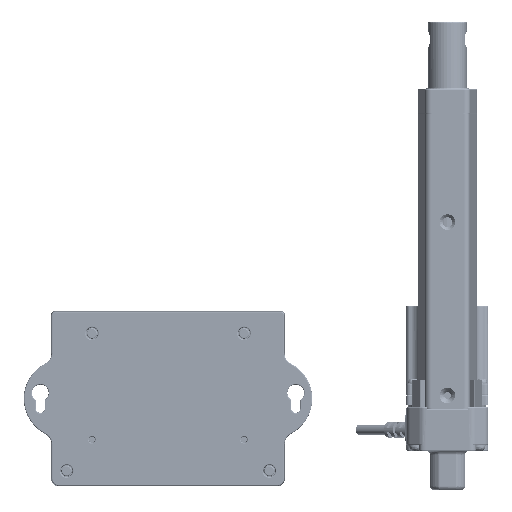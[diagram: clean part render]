
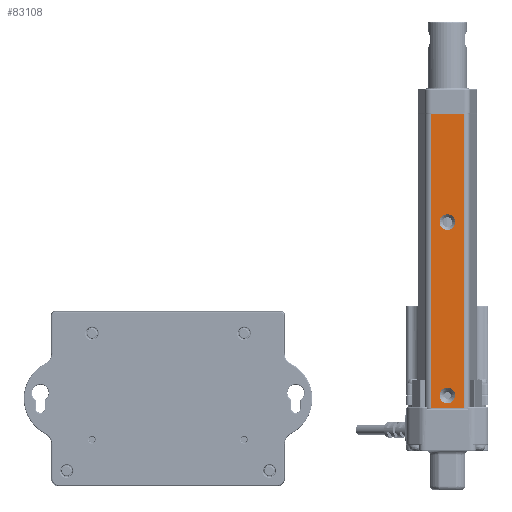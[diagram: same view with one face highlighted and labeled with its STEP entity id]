
A CAD part, front view. The second image highlights one B-rep face of the part: STEP entity #83108.
In plain terms, the highlighted planar face has unit normal (0, -1, 0) as drawn and (0, 0, -1) by its records, which use the part's own axes.
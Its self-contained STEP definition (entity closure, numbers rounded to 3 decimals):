
#10561=DIRECTION('',(1.,0.,0.));
#10562=VECTOR('',#10561,17.);
#10563=CARTESIAN_POINT('',(-8.5,153.,-21.45));
#10564=LINE('',#10563,#10562);
#24353=DIRECTION('',(0.,-1.,0.));
#24354=VECTOR('',#24353,151.);
#24355=CARTESIAN_POINT('',(-8.5,153.,-21.45));
#24356=LINE('',#24355,#24354);
#24357=DIRECTION('',(1.,0.,0.));
#24358=VECTOR('',#24357,17.);
#24359=CARTESIAN_POINT('',(-8.5,2.,-21.45));
#24360=LINE('',#24359,#24358);
#24361=DIRECTION('',(0.,1.,0.));
#24362=VECTOR('',#24361,151.);
#24363=CARTESIAN_POINT('',(8.5,2.,-21.45));
#24364=LINE('',#24363,#24362);
#24365=CARTESIAN_POINT('',(0.,97.4,-21.45));
#24366=DIRECTION('',(0.,0.,-1.));
#24367=DIRECTION('',(1.,0.,0.));
#24368=AXIS2_PLACEMENT_3D('',#24365,#24366,#24367);
#24370=CARTESIAN_POINT('',(0.,97.4,-21.45));
#24371=DIRECTION('',(0.,0.,-1.));
#24372=DIRECTION('',(-1.,0.,0.));
#24373=AXIS2_PLACEMENT_3D('',#24370,#24371,#24372);
#24375=CARTESIAN_POINT('',(0.,8.5,-21.45));
#24376=DIRECTION('',(0.,0.,-1.));
#24377=DIRECTION('',(1.,0.,0.));
#24378=AXIS2_PLACEMENT_3D('',#24375,#24376,#24377);
#24380=CARTESIAN_POINT('',(0.,8.5,-21.45));
#24381=DIRECTION('',(0.,0.,-1.));
#24382=DIRECTION('',(-1.,0.,0.));
#24383=AXIS2_PLACEMENT_3D('',#24380,#24381,#24382);
#31493=CARTESIAN_POINT('',(-8.5,153.,-21.45));
#31494=VERTEX_POINT('',#31493);
#31495=CARTESIAN_POINT('',(8.5,153.,-21.45));
#31496=VERTEX_POINT('',#31495);
#33896=CARTESIAN_POINT('',(-4.,8.5,-21.45));
#33897=VERTEX_POINT('',#33896);
#33898=CARTESIAN_POINT('',(4.,8.5,-21.45));
#33899=VERTEX_POINT('',#33898);
#33900=CARTESIAN_POINT('',(-8.5,2.,-21.45));
#33901=VERTEX_POINT('',#33900);
#33902=CARTESIAN_POINT('',(8.5,2.,-21.45));
#33903=VERTEX_POINT('',#33902);
#33904=CARTESIAN_POINT('',(4.,97.4,-21.45));
#33905=CARTESIAN_POINT('',(-4.,97.4,-21.45));
#33906=VERTEX_POINT('',#33904);
#33907=VERTEX_POINT('',#33905);
#83084=CARTESIAN_POINT('',(0.,77.5,-21.45));
#83085=DIRECTION('',(0.,0.,1.));
#83086=DIRECTION('',(-0.707,-0.707,0.));
#83087=AXIS2_PLACEMENT_3D('',#83084,#83085,#83086);
#83088=PLANE('',#83087);
#83089=ORIENTED_EDGE('',*,*,#58049,.F.);
#83091=ORIENTED_EDGE('',*,*,#83090,.T.);
#83093=ORIENTED_EDGE('',*,*,#83092,.T.);
#83095=ORIENTED_EDGE('',*,*,#83094,.T.);
#83096=EDGE_LOOP('',(#83089,#83091,#83093,#83095));
#83097=FACE_OUTER_BOUND('',#83096,.F.);
#83099=ORIENTED_EDGE('',*,*,#83098,.T.);
#83101=ORIENTED_EDGE('',*,*,#83100,.T.);
#83102=EDGE_LOOP('',(#83099,#83101));
#83103=FACE_BOUND('',#83102,.F.);
#83104=ORIENTED_EDGE('',*,*,#83063,.T.);
#83105=ORIENTED_EDGE('',*,*,#83078,.T.);
#83106=EDGE_LOOP('',(#83104,#83105));
#83107=FACE_BOUND('',#83106,.F.);
#83108=ADVANCED_FACE('',(#83097,#83103,#83107),#83088,.F.);
#24369=CIRCLE('',#24368,4.);
#24374=CIRCLE('',#24373,4.);
#24379=CIRCLE('',#24378,4.);
#24384=CIRCLE('',#24383,4.);
#58049=EDGE_CURVE('',#31494,#31496,#10564,.T.);
#83063=EDGE_CURVE('',#33899,#33897,#24379,.T.);
#83078=EDGE_CURVE('',#33897,#33899,#24384,.T.);
#83090=EDGE_CURVE('',#31494,#33901,#24356,.T.);
#83092=EDGE_CURVE('',#33901,#33903,#24360,.T.);
#83094=EDGE_CURVE('',#33903,#31496,#24364,.T.);
#83098=EDGE_CURVE('',#33906,#33907,#24369,.T.);
#83100=EDGE_CURVE('',#33907,#33906,#24374,.T.);
